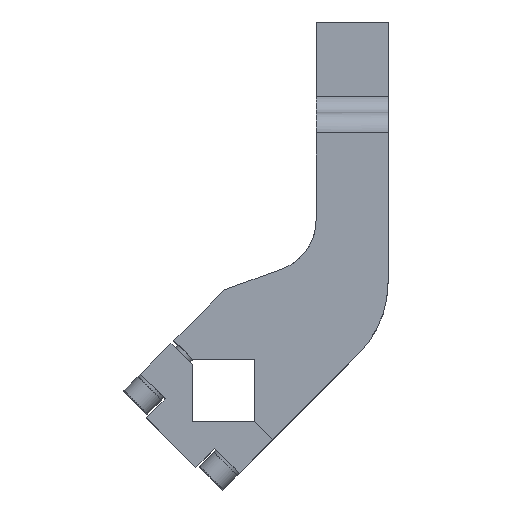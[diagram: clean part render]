
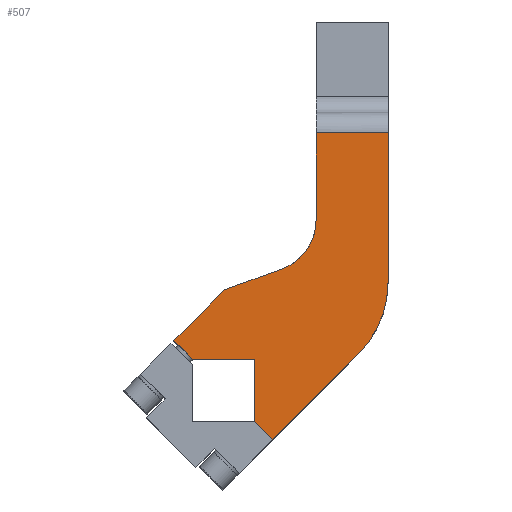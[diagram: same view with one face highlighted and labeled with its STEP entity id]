
A CAD part, top view. The second image highlights one B-rep face of the part: STEP entity #507.
In plain terms, the highlighted planar face has unit normal (0, 0, 1).
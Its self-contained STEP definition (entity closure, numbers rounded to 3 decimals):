
#326=CARTESIAN_POINT('Vertex',(65.355,17.272,54.)) ;
#329=CARTESIAN_POINT('Line Origine',(44.698,-3.385,54.)) ;
#333=CARTESIAN_POINT('Vertex',(24.042,-24.042,54.)) ;
#367=CARTESIAN_POINT('Line Origine',(19.566,-19.566,54.)) ;
#371=CARTESIAN_POINT('Vertex',(15.091,-15.091,54.)) ;
#411=CARTESIAN_POINT('Axis2P3D Location',(0.,0.,54.)) ;
#416=CARTESIAN_POINT('Line Origine',(80.,88.814,54.)) ;
#420=CARTESIAN_POINT('Vertex',(80.,125.,54.)) ;
#422=CARTESIAN_POINT('Vertex',(80.,52.627,54.)) ;
#425=CARTESIAN_POINT('Line Origine',(62.5,125.,54.)) ;
#429=CARTESIAN_POINT('Vertex',(45.,125.,54.)) ;
#432=CARTESIAN_POINT('Line Origine',(45.,103.706,54.)) ;
#436=CARTESIAN_POINT('Vertex',(45.,82.412,54.)) ;
#440=CARTESIAN_POINT('Control Point',(45.,82.412,54.)) ;
#441=CARTESIAN_POINT('Control Point',(45.,79.963,54.)) ;
#442=CARTESIAN_POINT('Control Point',(44.7,77.513,54.)) ;
#443=CARTESIAN_POINT('Control Point',(44.1,75.113,54.)) ;
#444=CARTESIAN_POINT('Control Point',(42.324,70.508,54.)) ;
#445=CARTESIAN_POINT('Control Point',(39.49,66.467,54.)) ;
#446=CARTESIAN_POINT('Control Point',(37.831,64.631,54.)) ;
#447=CARTESIAN_POINT('Control Point',(35.042,62.22,54.)) ;
#448=CARTESIAN_POINT('Control Point',(31.88,60.365,54.)) ;
#449=CARTESIAN_POINT('Control Point',(30.799,59.816,54.)) ;
#450=CARTESIAN_POINT('Control Point',(29.687,59.334,54.)) ;
#451=CARTESIAN_POINT('Control Point',(28.551,58.92,54.)) ;
#452=CARTESIAN_POINT('Vertex',(28.551,58.92,54.)) ;
#455=CARTESIAN_POINT('Line Origine',(14.625,53.852,54.)) ;
#459=CARTESIAN_POINT('Vertex',(0.7,48.783,54.)) ;
#462=CARTESIAN_POINT('Line Origine',(-11.671,36.412,54.)) ;
#466=CARTESIAN_POINT('Vertex',(-24.042,24.042,54.)) ;
#469=CARTESIAN_POINT('Line Origine',(-19.566,19.566,54.)) ;
#473=CARTESIAN_POINT('Vertex',(-15.091,15.091,54.)) ;
#476=CARTESIAN_POINT('Line Origine',(0.,15.091,54.)) ;
#480=CARTESIAN_POINT('Vertex',(15.091,15.091,54.)) ;
#483=CARTESIAN_POINT('Line Origine',(15.091,0.,54.)) ;
#488=CARTESIAN_POINT('Axis2P3D Location',(30.,52.627,54.)) ;
#330=DIRECTION('Vector Direction',(0.707,0.707,0.)) ;
#368=DIRECTION('Vector Direction',(0.707,-0.707,0.)) ;
#412=DIRECTION('Axis2P3D Direction',(0.,0.,1.)) ;
#413=DIRECTION('Axis2P3D XDirection',(1.,0.,0.)) ;
#417=DIRECTION('Vector Direction',(0.,-1.,0.)) ;
#426=DIRECTION('Vector Direction',(-1.,0.,0.)) ;
#433=DIRECTION('Vector Direction',(0.,-1.,0.)) ;
#456=DIRECTION('Vector Direction',(-0.94,-0.342,0.)) ;
#463=DIRECTION('Vector Direction',(-0.707,-0.707,0.)) ;
#470=DIRECTION('Vector Direction',(0.707,-0.707,0.)) ;
#477=DIRECTION('Vector Direction',(1.,0.,0.)) ;
#484=DIRECTION('Vector Direction',(0.,-1.,0.)) ;
#489=DIRECTION('Axis2P3D Direction',(0.,0.,1.)) ;
#414=AXIS2_PLACEMENT_3D('Plane Axis2P3D',#411,#412,#413) ;
#490=AXIS2_PLACEMENT_3D('Circle Axis2P3D',#488,#489,$) ;
#494=ORIENTED_EDGE('',*,*,#424,.F.) ;
#495=ORIENTED_EDGE('',*,*,#431,.T.) ;
#496=ORIENTED_EDGE('',*,*,#438,.T.) ;
#497=ORIENTED_EDGE('',*,*,#454,.T.) ;
#498=ORIENTED_EDGE('',*,*,#461,.T.) ;
#499=ORIENTED_EDGE('',*,*,#468,.T.) ;
#500=ORIENTED_EDGE('',*,*,#475,.T.) ;
#501=ORIENTED_EDGE('',*,*,#482,.T.) ;
#502=ORIENTED_EDGE('',*,*,#487,.T.) ;
#503=ORIENTED_EDGE('',*,*,#373,.T.) ;
#504=ORIENTED_EDGE('',*,*,#335,.T.) ;
#505=ORIENTED_EDGE('',*,*,#492,.T.) ;
#331=VECTOR('Line Direction',#330,1.) ;
#369=VECTOR('Line Direction',#368,1.) ;
#418=VECTOR('Line Direction',#417,1.) ;
#427=VECTOR('Line Direction',#426,1.) ;
#434=VECTOR('Line Direction',#433,1.) ;
#457=VECTOR('Line Direction',#456,1.) ;
#464=VECTOR('Line Direction',#463,1.) ;
#471=VECTOR('Line Direction',#470,1.) ;
#478=VECTOR('Line Direction',#477,1.) ;
#485=VECTOR('Line Direction',#484,1.) ;
#507=ADVANCED_FACE('NONE',(#506),#415,.T.) ;
#439=B_SPLINE_CURVE_WITH_KNOTS('',5,(#440,#441,#442,#443,#444,#445,#446,#447,#448,#449,#450,#451),.UNSPECIFIED.,.F.,.U.,(6,3,3,6),(0.,17.32,34.641,43.194),.UNSPECIFIED.) ;
#491=CIRCLE('generated circle',#490,50.) ;
#335=EDGE_CURVE('',#334,#327,#332,.T.) ;
#373=EDGE_CURVE('',#372,#334,#370,.T.) ;
#424=EDGE_CURVE('',#421,#423,#419,.T.) ;
#431=EDGE_CURVE('',#421,#430,#428,.T.) ;
#438=EDGE_CURVE('',#430,#437,#435,.T.) ;
#454=EDGE_CURVE('',#437,#453,#439,.T.) ;
#461=EDGE_CURVE('',#453,#460,#458,.T.) ;
#468=EDGE_CURVE('',#460,#467,#465,.T.) ;
#475=EDGE_CURVE('',#467,#474,#472,.T.) ;
#482=EDGE_CURVE('',#474,#481,#479,.T.) ;
#487=EDGE_CURVE('',#481,#372,#486,.T.) ;
#492=EDGE_CURVE('',#327,#423,#491,.T.) ;
#493=EDGE_LOOP('',(#494,#495,#496,#497,#498,#499,#500,#501,#502,#503,#504,#505)) ;
#506=FACE_OUTER_BOUND('',#493,.T.) ;
#332=LINE('Line',#329,#331) ;
#370=LINE('Line',#367,#369) ;
#419=LINE('Line',#416,#418) ;
#428=LINE('Line',#425,#427) ;
#435=LINE('Line',#432,#434) ;
#458=LINE('Line',#455,#457) ;
#465=LINE('Line',#462,#464) ;
#472=LINE('Line',#469,#471) ;
#479=LINE('Line',#476,#478) ;
#486=LINE('Line',#483,#485) ;
#415=PLANE('Plane',#414) ;
#327=VERTEX_POINT('',#326) ;
#334=VERTEX_POINT('',#333) ;
#372=VERTEX_POINT('',#371) ;
#421=VERTEX_POINT('',#420) ;
#423=VERTEX_POINT('',#422) ;
#430=VERTEX_POINT('',#429) ;
#437=VERTEX_POINT('',#436) ;
#453=VERTEX_POINT('',#452) ;
#460=VERTEX_POINT('',#459) ;
#467=VERTEX_POINT('',#466) ;
#474=VERTEX_POINT('',#473) ;
#481=VERTEX_POINT('',#480) ;
